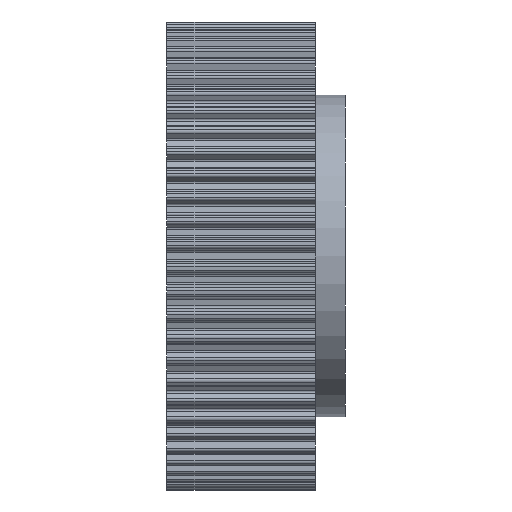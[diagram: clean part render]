
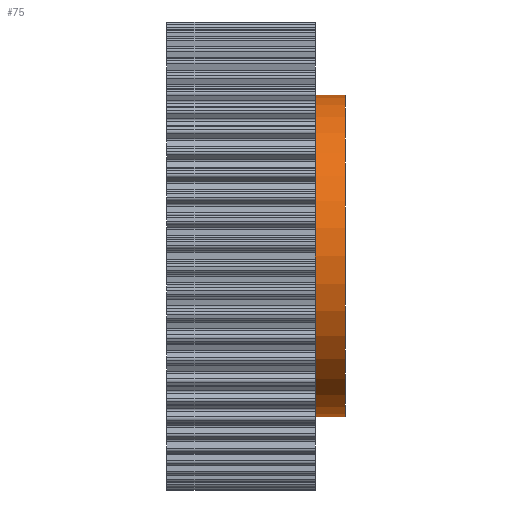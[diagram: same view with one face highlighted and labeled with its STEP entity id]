
A CAD part, front view. The second image highlights one B-rep face of the part: STEP entity #75.
In plain terms, the highlighted cylindrical face has radius 32.5 mm (diameter 65 mm), a full revolution.
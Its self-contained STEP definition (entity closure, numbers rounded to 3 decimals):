
#75 = ADVANCED_FACE( '', ( #561, #562 ), #563, .T. );
#561 = FACE_OUTER_BOUND( '', #1536, .T. );
#562 = FACE_OUTER_BOUND( '', #1537, .T. );
#563 = CYLINDRICAL_SURFACE( '', #1538, 32.5 );
#1536 = EDGE_LOOP( '', ( #2511 ) );
#1537 = EDGE_LOOP( '', ( #2512 ) );
#1538 = AXIS2_PLACEMENT_3D( '', #2513, #2514, #2515 );
#2511 = ORIENTED_EDGE( '', *, *, #6854, .F. );
#2512 = ORIENTED_EDGE( '', *, *, #6855, .T. );
#2513 = CARTESIAN_POINT( '', ( 36., 0., 0. ) );
#2514 = DIRECTION( '', ( -1., 0., 0. ) );
#2515 = DIRECTION( '', ( 0., 0., -1. ) );
#6854 = EDGE_CURVE( '', #8298, #8298, #8299, .T. );
#6855 = EDGE_CURVE( '', #8300, #8300, #8301, .T. );
#8298 = VERTEX_POINT( '', #10706 );
#8299 = CIRCLE( '', #10707, 32.5 );
#8300 = VERTEX_POINT( '', #10708 );
#8301 = CIRCLE( '', #10709, 32.5 );
#10706 = CARTESIAN_POINT( '', ( 36., 0., -32.5 ) );
#10707 = AXIS2_PLACEMENT_3D( '', #13954, #13955, #13956 );
#10708 = CARTESIAN_POINT( '', ( 30., 0., -32.5 ) );
#10709 = AXIS2_PLACEMENT_3D( '', #13957, #13958, #13959 );
#13954 = CARTESIAN_POINT( '', ( 36., 0., 0. ) );
#13955 = DIRECTION( '', ( 1., 0., 0. ) );
#13956 = DIRECTION( '', ( 0., 0., -1. ) );
#13957 = CARTESIAN_POINT( '', ( 30., 0., 0. ) );
#13958 = DIRECTION( '', ( 1., 0., 0. ) );
#13959 = DIRECTION( '', ( 0., 0., -1. ) );
